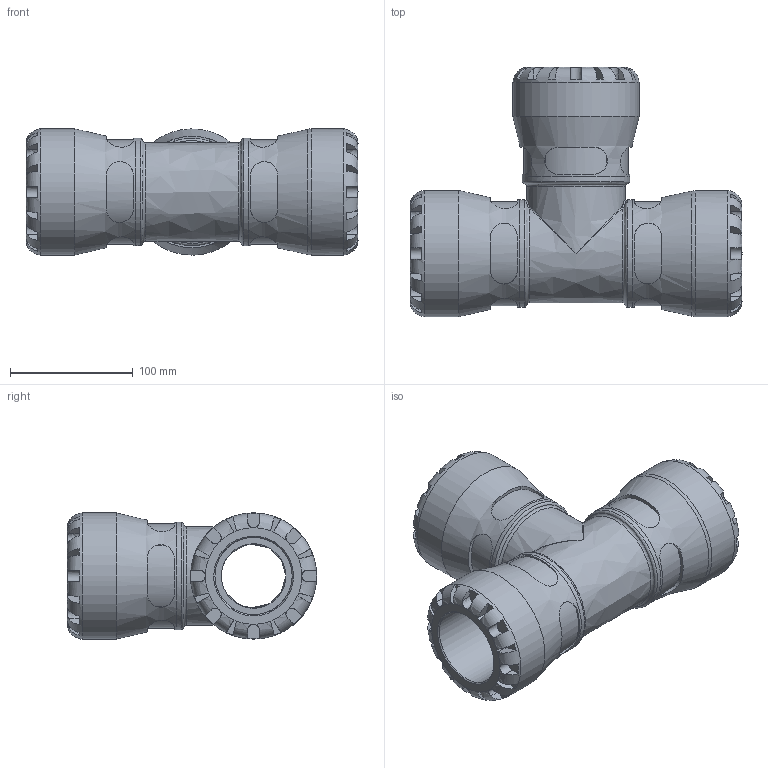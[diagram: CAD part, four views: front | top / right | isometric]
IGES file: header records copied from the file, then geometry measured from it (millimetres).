
Global section: file name: 150400063; native system: Autodesk Inventor 2019; preprocessor: unknown; author: KIM; date: 20231017.192418; units: millimetre
Bounding box: 271 x 203.5 x 103 mm (x, y, z)
Volume: 1412390.1 mm3; surface area: 208933.8 mm2
Topology: 1 solids, 1 shells, 304 faces, 811 edges, 517 vertices
Faces by surface type: bspline 304
